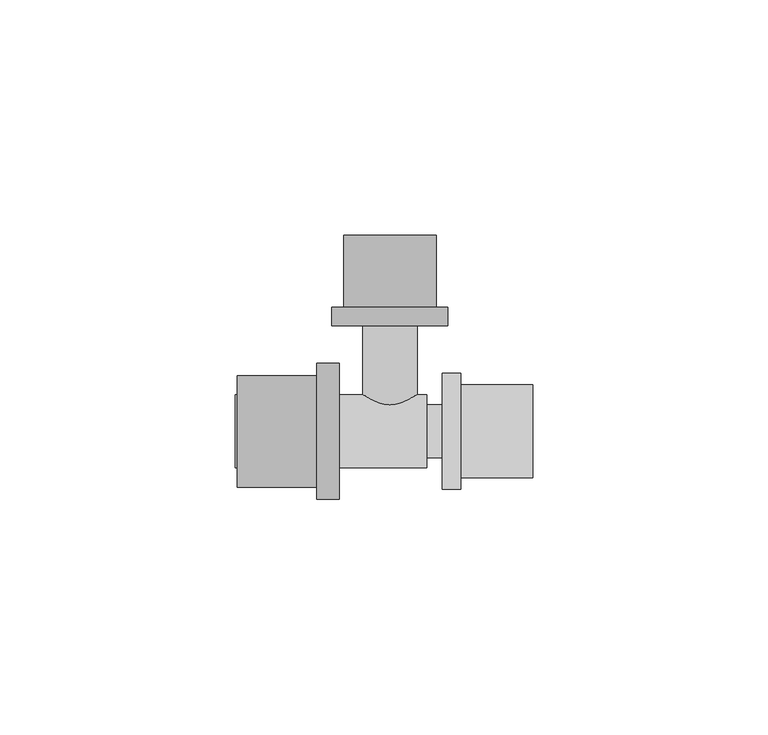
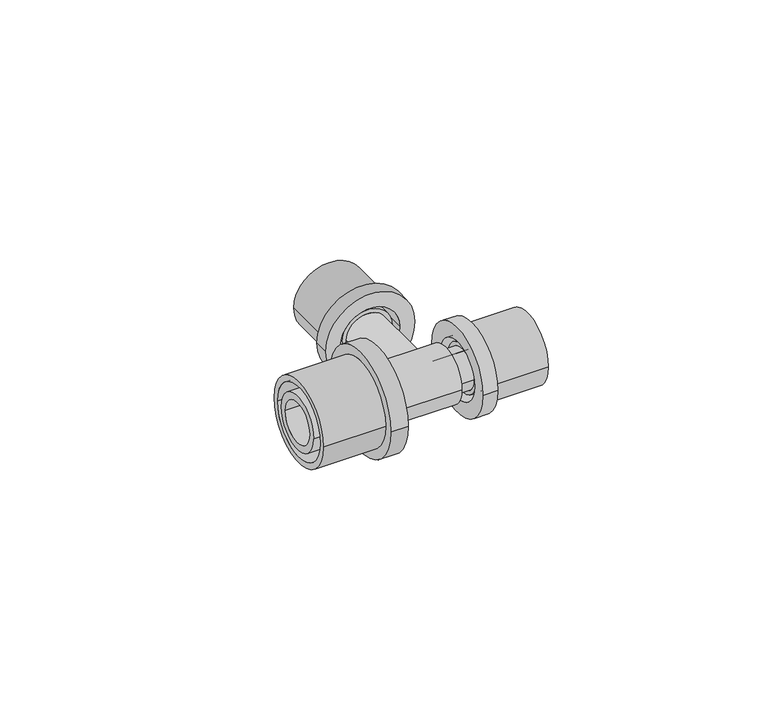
"""IFC4 building model written with IfcOpenShell, lengths in millimetres: pipe fitting geometry, FASTLOC_T-piece_EX+ : FSL T-Piece EX+ AT."""

from ifc_helpers import new_model, si_unit, frame, origin, place, context, project, spatial, polyline, circle_curve, source, transform, mapped, element, save
from ifc_brep_helpers import plane_surface, cylinder_surface, revolved_surface, advanced_brep


def pipe_fitting_3090ac59(model_context):
    return source(origin(), model_context, "Body", "AdvancedBrep", [
        advanced_brep(
        [(15.1, 12.35, 0.0), (15.1, -12.35, 0.0), (11.1, -12.35, 0.0), (11.1, 12.35, 0.0), (30.4, 9.85, 0.0), (30.4, -9.85, 0.0), (15.1, -9.85, 0.0), (15.1, 9.85, 0.0), (11.1, 8.15, 0.0), (11.1, -8.15, 0.0), (30.4, -8.15, 0.0), (30.4, 8.15, 0.0)],
        [
            (0, 1, circle_curve(frame((15.1, 0.0, 0.0), z_axis=(-1.0, 0.0, 0.0), x_axis=(0.0, -1.0, 0.0)), 12.35)),
            (1, 2),
            (2, 3, circle_curve(frame((11.1, 0.0, 0.0), z_axis=(1.0, 0.0, 0.0), x_axis=(0.0, -1.0, 0.0)), 12.35)),
            (3, 0),
            (4, 5, circle_curve(frame((30.4, 0.0, 0.0), z_axis=(-1.0, 0.0, 0.0), x_axis=(0.0, -1.0, 0.0)), 9.85)),
            (5, 6),
            (6, 7, circle_curve(frame((15.1, 0.0, 0.0), z_axis=(1.0, 0.0, 0.0), x_axis=(0.0, -1.0, 0.0)), 9.85)),
            (7, 4),
            (8, 9, circle_curve(frame((11.1, 0.0, 0.0), z_axis=(-1.0, 0.0, 0.0), x_axis=(0.0, -1.0, 0.0)), 8.15)),
            (9, 10),
            (10, 11, circle_curve(frame((30.4, 0.0, 0.0), z_axis=(1.0, 0.0, 0.0), x_axis=(0.0, -1.0, 0.0)), 8.15)),
            (11, 8),
            (1, 0, circle_curve(frame((15.1, 0.0, 0.0), z_axis=(-1.0, 0.0, 0.0), x_axis=(0.0, 1.0, 0.0)), 12.35)),
            (3, 2, circle_curve(frame((11.1, 0.0, 0.0), z_axis=(1.0, 0.0, 0.0), x_axis=(0.0, 1.0, 0.0)), 12.35)),
            (6, 7, circle_curve(frame((15.1, 0.0, 0.0), z_axis=(-1.0, 0.0, 0.0), x_axis=(0.0, 1.0, 0.0)), 9.85)),
            (5, 4, circle_curve(frame((30.4, 0.0, 0.0), z_axis=(-1.0, 0.0, 0.0), x_axis=(0.0, 1.0, 0.0)), 9.85)),
            (10, 11, circle_curve(frame((30.4, 0.0, 0.0), z_axis=(-1.0, 0.0, 0.0), x_axis=(0.0, 1.0, 0.0)), 8.15)),
            (9, 8, circle_curve(frame((11.1, 0.0, 0.0), z_axis=(-1.0, 0.0, 0.0), x_axis=(0.0, 1.0, 0.0)), 8.15)),
        ],
        [
            cylinder_surface(frame((11.1, 0.0, 0.0), z_axis=(1.0, 0.0, 0.0), x_axis=(0.0, -1.0, 0.0)), 12.35),
            cylinder_surface(frame((11.1, 0.0, 0.0), z_axis=(1.0, 0.0, 0.0), x_axis=(0.0, -1.0, 0.0)), 9.85),
            revolved_surface(polyline([(30.4, -8.15, 0.0), (11.1, -8.15, 0.0)]), (11.1, 0.0, 0.0), (1.0, 0.0, 0.0)),
            cylinder_surface(frame((11.1, 0.0, 0.0), z_axis=(1.0, 0.0, 0.0), x_axis=(0.0, 1.0, 0.0)), 12.35),
            plane_surface(frame((15.1, 0.0, 0.0), z_axis=(1.0, 0.0, 0.0), x_axis=(0.0, 1.0, 0.0))),
            cylinder_surface(frame((11.1, 0.0, 0.0), z_axis=(1.0, 0.0, 0.0), x_axis=(0.0, 1.0, 0.0)), 9.85),
            plane_surface(frame((30.4, 0.0, 0.0), z_axis=(1.0, 0.0, 0.0), x_axis=(0.0, 1.0, 0.0))),
            revolved_surface(polyline([(30.4, 8.15, 0.0), (11.1, 8.15, 0.0)]), (11.1, 0.0, 0.0), (1.0, 0.0, 0.0)),
            plane_surface(frame((11.1, 0.0, 0.0), z_axis=(-1.0, 0.0, 0.0), x_axis=(0.0, 1.0, 0.0))),
        ],
        [
            (0, [[1, 2, 3, 4]]),
            (1, [[5, 6, 7, 8]]),
            (2, [[9, 10, 11, 12]]),
            (3, [[13, -4, 14, -2]]),
            (4, [[-13, -1], [15, -7]]),
            (5, [[16, -8, -15, -6]]),
            (6, [[-16, -5], [17, -11]]),
            (7, [[18, -12, -17, -10]]),
            (8, [[-14, -3], [-18, -9]]),
        ],
    ),
        advanced_brep(
        [(-15.5, -14.5, 0.0), (-15.5, 14.5, 0.0), (-10.8, 14.5, 0.0), (-10.8, -14.5, 0.0), (-32.5, -11.85, 0.0), (-32.5, 11.85, 0.0), (-15.5, 11.85, 0.0), (-15.5, -11.85, 0.0), (-10.8, -10.15, 0.0), (-10.8, 10.15, 0.0), (-32.5, 10.15, 0.0), (-32.5, -10.15, 0.0)],
        [
            (0, 1, circle_curve(frame((-15.5, 0.0, 0.0), z_axis=(1.0, 0.0, 0.0), x_axis=(0.0, 1.0, 0.0)), 14.5)),
            (1, 2),
            (2, 3, circle_curve(frame((-10.8, 0.0, 0.0), z_axis=(-1.0, 0.0, 0.0), x_axis=(0.0, 1.0, 0.0)), 14.5)),
            (3, 0),
            (4, 5, circle_curve(frame((-32.5, 0.0, 0.0), z_axis=(1.0, 0.0, 0.0), x_axis=(0.0, 1.0, 0.0)), 11.85)),
            (5, 6),
            (6, 7, circle_curve(frame((-15.5, 0.0, 0.0), z_axis=(-1.0, 0.0, 0.0), x_axis=(0.0, 1.0, 0.0)), 11.85)),
            (7, 4),
            (8, 9, circle_curve(frame((-10.8, 0.0, 0.0), z_axis=(1.0, 0.0, 0.0), x_axis=(0.0, 1.0, 0.0)), 10.15)),
            (9, 10),
            (10, 11, circle_curve(frame((-32.5, 0.0, 0.0), z_axis=(-1.0, 0.0, 0.0), x_axis=(0.0, 1.0, 0.0)), 10.15)),
            (11, 8),
            (1, 0, circle_curve(frame((-15.5, 0.0, 0.0), z_axis=(1.0, 0.0, 0.0), x_axis=(0.0, -1.0, 0.0)), 14.5)),
            (3, 2, circle_curve(frame((-10.8, 0.0, 0.0), z_axis=(-1.0, 0.0, 0.0), x_axis=(0.0, -1.0, 0.0)), 14.5)),
            (6, 7, circle_curve(frame((-15.5, 0.0, 0.0), z_axis=(1.0, 0.0, 0.0), x_axis=(0.0, -1.0, 0.0)), 11.85)),
            (5, 4, circle_curve(frame((-32.5, 0.0, 0.0), z_axis=(1.0, 0.0, 0.0), x_axis=(0.0, -1.0, 0.0)), 11.85)),
            (10, 11, circle_curve(frame((-32.5, 0.0, 0.0), z_axis=(1.0, 0.0, 0.0), x_axis=(0.0, -1.0, 0.0)), 10.15)),
            (9, 8, circle_curve(frame((-10.8, 0.0, 0.0), z_axis=(1.0, 0.0, 0.0), x_axis=(0.0, -1.0, 0.0)), 10.15)),
        ],
        [
            cylinder_surface(frame((-10.8, 0.0, 0.0), z_axis=(-1.0, 0.0, 0.0), x_axis=(0.0, 1.0, 0.0)), 14.5),
            cylinder_surface(frame((-10.8, 0.0, 0.0), z_axis=(-1.0, 0.0, 0.0), x_axis=(0.0, 1.0, 0.0)), 11.85),
            revolved_surface(polyline([(-32.5, 10.15, 0.0), (-10.8, 10.15, 0.0)]), (-10.8, 0.0, 0.0), (-1.0, 0.0, 0.0)),
            cylinder_surface(frame((-10.8, 0.0, 0.0), z_axis=(-1.0, 0.0, 0.0), x_axis=(0.0, -1.0, 0.0)), 14.5),
            plane_surface(frame((-15.5, 0.0, 0.0), z_axis=(-1.0, 0.0, 0.0), x_axis=(0.0, -1.0, 0.0))),
            cylinder_surface(frame((-10.8, 0.0, 0.0), z_axis=(-1.0, 0.0, 0.0), x_axis=(0.0, -1.0, 0.0)), 11.85),
            plane_surface(frame((-32.5, 0.0, 0.0), z_axis=(-1.0, 0.0, 0.0), x_axis=(0.0, -1.0, 0.0))),
            revolved_surface(polyline([(-32.5, -10.15, 0.0), (-10.8, -10.15, 0.0)]), (-10.8, 0.0, 0.0), (-1.0, 0.0, 0.0)),
            plane_surface(frame((-10.8, 0.0, 0.0), z_axis=(1.0, 0.0, 0.0), x_axis=(0.0, -1.0, 0.0))),
        ],
        [
            (0, [[1, 2, 3, 4]]),
            (1, [[5, 6, 7, 8]]),
            (2, [[9, 10, 11, 12]]),
            (3, [[13, -4, 14, -2]]),
            (4, [[-13, -1], [15, -7]]),
            (5, [[16, -8, -15, -6]]),
            (6, [[-16, -5], [17, -11]]),
            (7, [[18, -12, -17, -10]]),
            (8, [[-14, -3], [-18, -9]]),
        ],
    ),
        advanced_brep(
        [(-12.35, 26.4, 0.0), (12.35, 26.4, 0.0), (12.35, 22.4, 0.0), (-12.35, 22.4, 0.0), (-9.85, 41.7, 0.0), (9.85, 41.7, 0.0), (9.85, 26.4, 0.0), (-9.85, 26.4, 0.0), (-8.15, 22.4, 0.0), (8.15, 22.4, 0.0), (8.15, 41.7, 0.0), (-8.15, 41.7, 0.0)],
        [
            (0, 1, circle_curve(frame((0.0, 26.4, 0.0), z_axis=(0.0, -1.0, 0.0), x_axis=(1.0, 0.0, 0.0)), 12.35)),
            (1, 2),
            (2, 3, circle_curve(frame((0.0, 22.4, 0.0), z_axis=(0.0, 1.0, 0.0), x_axis=(1.0, 0.0, 0.0)), 12.35)),
            (3, 0),
            (4, 5, circle_curve(frame((0.0, 41.7, 0.0), z_axis=(0.0, -1.0, 0.0), x_axis=(1.0, 0.0, 0.0)), 9.85)),
            (5, 6),
            (6, 7, circle_curve(frame((0.0, 26.4, 0.0), z_axis=(0.0, 1.0, 0.0), x_axis=(1.0, 0.0, 0.0)), 9.85)),
            (7, 4),
            (8, 9, circle_curve(frame((0.0, 22.4, 0.0), z_axis=(0.0, -1.0, 0.0), x_axis=(1.0, 0.0, 0.0)), 8.15)),
            (9, 10),
            (10, 11, circle_curve(frame((0.0, 41.7, 0.0), z_axis=(0.0, 1.0, 0.0), x_axis=(1.0, 0.0, 0.0)), 8.15)),
            (11, 8),
            (1, 0, circle_curve(frame((0.0, 26.4, 0.0), z_axis=(0.0, -1.0, 0.0), x_axis=(-1.0, 0.0, 0.0)), 12.35)),
            (3, 2, circle_curve(frame((0.0, 22.4, 0.0), z_axis=(0.0, 1.0, 0.0), x_axis=(-1.0, 0.0, 0.0)), 12.35)),
            (6, 7, circle_curve(frame((0.0, 26.4, 0.0), z_axis=(0.0, -1.0, 0.0), x_axis=(-1.0, 0.0, 0.0)), 9.85)),
            (5, 4, circle_curve(frame((0.0, 41.7, 0.0), z_axis=(0.0, -1.0, 0.0), x_axis=(-1.0, 0.0, 0.0)), 9.85)),
            (10, 11, circle_curve(frame((0.0, 41.7, 0.0), z_axis=(0.0, -1.0, 0.0), x_axis=(-1.0, 0.0, 0.0)), 8.15)),
            (9, 8, circle_curve(frame((0.0, 22.4, 0.0), z_axis=(0.0, -1.0, 0.0), x_axis=(-1.0, 0.0, 0.0)), 8.15)),
        ],
        [
            cylinder_surface(frame((0.0, 22.4, 0.0), z_axis=(0.0, 1.0, 0.0), x_axis=(1.0, 0.0, 0.0)), 12.35),
            cylinder_surface(frame((0.0, 22.4, 0.0), z_axis=(0.0, 1.0, 0.0), x_axis=(1.0, 0.0, 0.0)), 9.85),
            revolved_surface(polyline([(8.15, 41.7, 0.0), (8.15, 22.4, 0.0)]), (0.0, 22.4, 0.0), (0.0, 1.0, 0.0)),
            cylinder_surface(frame((0.0, 22.4, 0.0), z_axis=(0.0, 1.0, 0.0), x_axis=(-1.0, 0.0, 0.0)), 12.35),
            plane_surface(frame((0.0, 26.4, 0.0), z_axis=(0.0, 1.0, 0.0), x_axis=(-1.0, 0.0, 0.0))),
            cylinder_surface(frame((0.0, 22.4, 0.0), z_axis=(0.0, 1.0, 0.0), x_axis=(-1.0, 0.0, 0.0)), 9.85),
            plane_surface(frame((0.0, 41.7, 0.0), z_axis=(0.0, 1.0, 0.0), x_axis=(-1.0, 0.0, 0.0))),
            revolved_surface(polyline([(-8.15, 41.7, 0.0), (-8.15, 22.4, 0.0)]), (0.0, 22.4, 0.0), (0.0, 1.0, 0.0)),
            plane_surface(frame((0.0, 22.4, 0.0), z_axis=(0.0, -1.0, 0.0), x_axis=(-1.0, 0.0, 0.0))),
        ],
        [
            (0, [[1, 2, 3, 4]]),
            (1, [[5, 6, 7, 8]]),
            (2, [[9, 10, 11, 12]]),
            (3, [[13, -4, 14, -2]]),
            (4, [[-13, -1], [15, -7]]),
            (5, [[16, -8, -15, -6]]),
            (6, [[-16, -5], [17, -11]]),
            (7, [[18, -12, -17, -10]]),
            (8, [[-14, -3], [-18, -9]]),
        ],
    ),
        advanced_brep(
        [(12.39, 5.6, 0.0), (12.39, -5.6, 0.0), (7.85, -5.6, 0.0), (7.85, 5.6, 0.0), (15.1, 6.7, 0.0), (15.1, -6.7, 0.0), (12.39, -6.7, 0.0), (12.39, 6.7, 0.0), (30.1, 5.6, 0.0), (30.1, -5.6, 0.0), (15.1, -5.6, 0.0), (15.1, 5.6, 0.0), (6.0, 3.75, 0.0), (6.0, -3.75, 0.0), (30.1, -3.75, 0.0), (30.1, 3.75, 0.0), (-32.9, 5.75, 0.0), (-32.9, -5.75, 0.0), (6.0, -5.75, 0.0), (6.0, 5.75, 0.0), (-15.5, 7.75, 0.0), (-15.5, -7.75, 0.0), (-32.9, -7.75, 0.0), (-32.9, 7.75, 0.0), (-12.83, 8.8, 0.0), (-12.83, -8.8, 0.0), (-15.5, -8.8, 0.0), (-15.5, 8.8, 0.0), (7.85, 7.75, 0.0), (7.85, -7.75, 0.0), (-12.83, -7.75, 0.0), (-12.83, 7.75, 0.0)],
        [
            (0, 1, circle_curve(frame((12.39, 0.0, 0.0), z_axis=(-1.0, 0.0, 0.0), x_axis=(0.0, -1.0, 0.0)), 5.6)),
            (1, 2),
            (2, 3, circle_curve(frame((7.85, 0.0, 0.0), z_axis=(1.0, 0.0, 0.0), x_axis=(0.0, -1.0, 0.0)), 5.6)),
            (3, 0),
            (4, 5, circle_curve(frame((15.1, 0.0, 0.0), z_axis=(-1.0, 0.0, 0.0), x_axis=(0.0, -1.0, 0.0)), 6.7)),
            (5, 6),
            (6, 7, circle_curve(frame((12.39, 0.0, 0.0), z_axis=(1.0, 0.0, 0.0), x_axis=(0.0, -1.0, 0.0)), 6.7)),
            (7, 4),
            (8, 9, circle_curve(frame((30.1, 0.0, 0.0), z_axis=(-1.0, 0.0, 0.0), x_axis=(0.0, -1.0, 0.0)), 5.6)),
            (9, 10),
            (10, 11, circle_curve(frame((15.1, 0.0, 0.0), z_axis=(1.0, 0.0, 0.0), x_axis=(0.0, -1.0, 0.0)), 5.6)),
            (11, 8),
            (12, 13, circle_curve(frame((6.0, 0.0, 0.0), z_axis=(-1.0, 0.0, 0.0), x_axis=(0.0, -1.0, 0.0)), 3.75)),
            (13, 14),
            (14, 15, circle_curve(frame((30.1, 0.0, 0.0), z_axis=(1.0, 0.0, 0.0), x_axis=(0.0, -1.0, 0.0)), 3.75)),
            (15, 12),
            (16, 17, circle_curve(frame((-32.9, 0.0, 0.0), z_axis=(-1.0, 0.0, 0.0), x_axis=(0.0, -1.0, 0.0)), 5.75)),
            (17, 18),
            (18, 19, circle_curve(frame((6.0, 0.0, 0.0), z_axis=(1.0, 0.0, 0.0), x_axis=(0.0, -1.0, 0.0)), 5.75)),
            (19, 16),
            (20, 21, circle_curve(frame((-15.5, 0.0, 0.0), z_axis=(-1.0, 0.0, 0.0), x_axis=(0.0, -1.0, 0.0)), 7.75)),
            (21, 22),
            (22, 23, circle_curve(frame((-32.9, 0.0, 0.0), z_axis=(1.0, 0.0, 0.0), x_axis=(0.0, -1.0, 0.0)), 7.75)),
            (23, 20),
            (24, 25, circle_curve(frame((-12.83, 0.0, 0.0), z_axis=(-1.0, 0.0, 0.0), x_axis=(0.0, -1.0, 0.0)), 8.8)),
            (25, 26),
            (26, 27, circle_curve(frame((-15.5, 0.0, 0.0), z_axis=(1.0, 0.0, 0.0), x_axis=(0.0, -1.0, 0.0)), 8.8)),
            (27, 24),
            (28, 29, circle_curve(frame((7.85, 0.0, 0.0), z_axis=(-1.0, 0.0, 0.0), x_axis=(0.0, -1.0, 0.0)), 7.75)),
            (29, 30),
            (30, 31, circle_curve(frame((-12.83, 0.0, 0.0), z_axis=(1.0, 0.0, 0.0), x_axis=(0.0, -1.0, 0.0)), 7.75)),
            (31, 28),
            (28, 29, circle_curve(frame((7.85, 0.0, 0.0), z_axis=(1.0, 0.0, 0.0), x_axis=(0.0, 1.0, 0.0)), 7.75)),
            (2, 3, circle_curve(frame((7.85, 0.0, 0.0), z_axis=(-1.0, 0.0, 0.0), x_axis=(0.0, 1.0, 0.0)), 5.6)),
            (1, 0, circle_curve(frame((12.39, 0.0, 0.0), z_axis=(-1.0, 0.0, 0.0), x_axis=(0.0, 1.0, 0.0)), 5.6)),
            (6, 7, circle_curve(frame((12.39, 0.0, 0.0), z_axis=(-1.0, 0.0, 0.0), x_axis=(0.0, 1.0, 0.0)), 6.7)),
            (5, 4, circle_curve(frame((15.1, 0.0, 0.0), z_axis=(-1.0, 0.0, 0.0), x_axis=(0.0, 1.0, 0.0)), 6.7)),
            (10, 11, circle_curve(frame((15.1, 0.0, 0.0), z_axis=(-1.0, 0.0, 0.0), x_axis=(0.0, 1.0, 0.0)), 5.6)),
            (9, 8, circle_curve(frame((30.1, 0.0, 0.0), z_axis=(-1.0, 0.0, 0.0), x_axis=(0.0, 1.0, 0.0)), 5.6)),
            (14, 15, circle_curve(frame((30.1, 0.0, 0.0), z_axis=(-1.0, 0.0, 0.0), x_axis=(0.0, 1.0, 0.0)), 3.75)),
            (13, 12, circle_curve(frame((6.0, 0.0, 0.0), z_axis=(-1.0, 0.0, 0.0), x_axis=(0.0, 1.0, 0.0)), 3.75)),
            (18, 19, circle_curve(frame((6.0, 0.0, 0.0), z_axis=(-1.0, 0.0, 0.0), x_axis=(0.0, 1.0, 0.0)), 5.75)),
            (17, 16, circle_curve(frame((-32.9, 0.0, 0.0), z_axis=(-1.0, 0.0, 0.0), x_axis=(0.0, 1.0, 0.0)), 5.75)),
            (22, 23, circle_curve(frame((-32.9, 0.0, 0.0), z_axis=(-1.0, 0.0, 0.0), x_axis=(0.0, 1.0, 0.0)), 7.75)),
            (21, 20, circle_curve(frame((-15.5, 0.0, 0.0), z_axis=(-1.0, 0.0, 0.0), x_axis=(0.0, 1.0, 0.0)), 7.75)),
            (26, 27, circle_curve(frame((-15.5, 0.0, 0.0), z_axis=(-1.0, 0.0, 0.0), x_axis=(0.0, 1.0, 0.0)), 8.8)),
            (25, 24, circle_curve(frame((-12.83, 0.0, 0.0), z_axis=(-1.0, 0.0, 0.0), x_axis=(0.0, 1.0, 0.0)), 8.8)),
            (30, 31, circle_curve(frame((-12.83, 0.0, 0.0), z_axis=(-1.0, 0.0, 0.0), x_axis=(0.0, 1.0, 0.0)), 7.75)),
        ],
        [
            cylinder_surface(frame((0.0, 0.0, 0.0), z_axis=(1.0, 0.0, 0.0), x_axis=(0.0, -1.0, 0.0)), 5.6),
            cylinder_surface(frame((0.0, 0.0, 0.0), z_axis=(1.0, 0.0, 0.0), x_axis=(0.0, -1.0, 0.0)), 6.7),
            revolved_surface(polyline([(30.1, -3.75, 0.0), (6.0, -3.75, 0.0)]), (0.0, 0.0, 0.0), (1.0, 0.0, 0.0)),
            revolved_surface(polyline([(6.0, -5.75, 0.0), (-32.9, -5.75, 0.0)]), (0.0, 0.0, 0.0), (1.0, 0.0, 0.0)),
            cylinder_surface(frame((0.0, 0.0, 0.0), z_axis=(1.0, 0.0, 0.0), x_axis=(0.0, -1.0, 0.0)), 7.75),
            cylinder_surface(frame((0.0, 0.0, 0.0), z_axis=(1.0, 0.0, 0.0), x_axis=(0.0, -1.0, 0.0)), 8.8),
            plane_surface(frame((7.85, 0.0, 0.0), z_axis=(1.0, 0.0, 0.0), x_axis=(0.0, 1.0, 0.0))),
            cylinder_surface(frame((0.0, 0.0, 0.0), z_axis=(1.0, 0.0, 0.0), x_axis=(0.0, 1.0, 0.0)), 5.6),
            plane_surface(frame((12.39, 0.0, 0.0), z_axis=(-1.0, 0.0, 0.0), x_axis=(0.0, 1.0, 0.0))),
            cylinder_surface(frame((0.0, 0.0, 0.0), z_axis=(1.0, 0.0, 0.0), x_axis=(0.0, 1.0, 0.0)), 6.7),
            plane_surface(frame((15.1, 0.0, 0.0), z_axis=(1.0, 0.0, 0.0), x_axis=(0.0, 1.0, 0.0))),
            plane_surface(frame((30.1, 0.0, 0.0), z_axis=(1.0, 0.0, 0.0), x_axis=(0.0, 1.0, 0.0))),
            revolved_surface(polyline([(30.1, 3.75, 0.0), (6.0, 3.75, 0.0)]), (0.0, 0.0, 0.0), (1.0, 0.0, 0.0)),
            plane_surface(frame((6.0, 0.0, 0.0), z_axis=(-1.0, 0.0, 0.0), x_axis=(0.0, 1.0, 0.0))),
            revolved_surface(polyline([(6.0, 5.75, 0.0), (-32.9, 5.75, 0.0)]), (0.0, 0.0, 0.0), (1.0, 0.0, 0.0)),
            plane_surface(frame((-32.9, 0.0, 0.0), z_axis=(-1.0, 0.0, 0.0), x_axis=(0.0, 1.0, 0.0))),
            cylinder_surface(frame((0.0, 0.0, 0.0), z_axis=(1.0, 0.0, 0.0), x_axis=(0.0, 1.0, 0.0)), 7.75),
            plane_surface(frame((-15.5, 0.0, 0.0), z_axis=(-1.0, 0.0, 0.0), x_axis=(0.0, 1.0, 0.0))),
            cylinder_surface(frame((0.0, 0.0, 0.0), z_axis=(1.0, 0.0, 0.0), x_axis=(0.0, 1.0, 0.0)), 8.8),
            plane_surface(frame((-12.83, 0.0, 0.0), z_axis=(1.0, 0.0, 0.0), x_axis=(0.0, 1.0, 0.0))),
        ],
        [
            (0, [[1, 2, 3, 4]]),
            (1, [[5, 6, 7, 8]]),
            (0, [[9, 10, 11, 12]]),
            (2, [[13, 14, 15, 16]]),
            (3, [[17, 18, 19, 20]]),
            (4, [[21, 22, 23, 24]]),
            (5, [[25, 26, 27, 28]]),
            (4, [[29, 30, 31, 32]]),
            (6, [[33, -29], [34, -3]]),
            (7, [[35, -4, -34, -2]]),
            (8, [[36, -7], [-35, -1]]),
            (9, [[37, -8, -36, -6]]),
            (10, [[-37, -5], [38, -11]]),
            (7, [[39, -12, -38, -10]]),
            (11, [[-39, -9], [40, -15]]),
            (12, [[41, -16, -40, -14]]),
            (13, [[42, -19], [-41, -13]]),
            (14, [[43, -20, -42, -18]]),
            (15, [[44, -23], [-43, -17]]),
            (16, [[45, -24, -44, -22]]),
            (17, [[46, -27], [-45, -21]]),
            (18, [[47, -28, -46, -26]]),
            (19, [[-47, -25], [48, -31]]),
            (16, [[-33, -32, -48, -30]]),
        ],
    ),
        advanced_brep(
        [(3.95, 41.4, 0.0), (-3.95, 41.4, 0.0), (-3.95, 0.0, 0.0), (3.95, 0.0, 0.0), (5.8, 0.0, 0.0), (-5.8, 0.0, 0.0), (-5.8, 23.69, 0.0), (5.8, 23.69, 0.0), (6.9, 23.69, 0.0), (-6.9, 23.69, 0.0), (-6.9, 26.4, 0.0), (6.9, 26.4, 0.0), (5.8, 26.4, 0.0), (-5.8, 26.4, 0.0), (-5.8, 41.4, 0.0), (5.8, 41.4, 0.0)],
        [
            (0, 1, circle_curve(frame((0.0, 41.4, 0.0), z_axis=(0.0, 1.0, 0.0), x_axis=(-1.0, 0.0, 0.0)), 3.95)),
            (1, 2),
            (2, 3, circle_curve(frame((0.0, 0.0, 0.0), z_axis=(0.0, -1.0, 0.0), x_axis=(-1.0, 0.0, 0.0)), 3.95)),
            (3, 0),
            (4, 5, circle_curve(frame((0.0, 0.0, 0.0), z_axis=(0.0, 1.0, 0.0), x_axis=(-1.0, 0.0, 0.0)), 5.8)),
            (5, 6),
            (6, 7, circle_curve(frame((0.0, 23.69, 0.0), z_axis=(0.0, -1.0, 0.0), x_axis=(-1.0, 0.0, 0.0)), 5.8)),
            (7, 4),
            (8, 9, circle_curve(frame((0.0, 23.69, 0.0), z_axis=(0.0, 1.0, 0.0), x_axis=(-1.0, 0.0, 0.0)), 6.9)),
            (9, 10),
            (10, 11, circle_curve(frame((0.0, 26.4, 0.0), z_axis=(0.0, -1.0, 0.0), x_axis=(-1.0, 0.0, 0.0)), 6.9)),
            (11, 8),
            (12, 13, circle_curve(frame((0.0, 26.4, 0.0), z_axis=(0.0, 1.0, 0.0), x_axis=(-1.0, 0.0, 0.0)), 5.8)),
            (13, 14),
            (14, 15, circle_curve(frame((0.0, 41.4, 0.0), z_axis=(0.0, -1.0, 0.0), x_axis=(-1.0, 0.0, 0.0)), 5.8)),
            (15, 12),
            (1, 0, circle_curve(frame((0.0, 41.4, 0.0), z_axis=(0.0, 1.0, 0.0), x_axis=(1.0, 0.0, 0.0)), 3.95)),
            (3, 2, circle_curve(frame((0.0, 0.0, 0.0), z_axis=(0.0, -1.0, 0.0), x_axis=(1.0, 0.0, 0.0)), 3.95)),
            (4, 5, circle_curve(frame((0.0, 0.0, 0.0), z_axis=(0.0, -1.0, 0.0), x_axis=(1.0, 0.0, 0.0)), 5.8)),
            (7, 6, circle_curve(frame((0.0, 23.69, 0.0), z_axis=(0.0, -1.0, 0.0), x_axis=(1.0, 0.0, 0.0)), 5.8)),
            (8, 9, circle_curve(frame((0.0, 23.69, 0.0), z_axis=(0.0, -1.0, 0.0), x_axis=(1.0, 0.0, 0.0)), 6.9)),
            (11, 10, circle_curve(frame((0.0, 26.4, 0.0), z_axis=(0.0, -1.0, 0.0), x_axis=(1.0, 0.0, 0.0)), 6.9)),
            (12, 13, circle_curve(frame((0.0, 26.4, 0.0), z_axis=(0.0, -1.0, 0.0), x_axis=(1.0, 0.0, 0.0)), 5.8)),
            (15, 14, circle_curve(frame((0.0, 41.4, 0.0), z_axis=(0.0, -1.0, 0.0), x_axis=(1.0, 0.0, 0.0)), 5.8)),
        ],
        [
            revolved_surface(polyline([(-3.95, 0.0, 0.0), (-3.95, 41.4, 0.0)]), (0.0, 0.0, 0.0), (0.0, -1.0, 0.0)),
            cylinder_surface(frame((0.0, 0.0, 0.0), z_axis=(0.0, -1.0, 0.0), x_axis=(-1.0, 0.0, 0.0)), 5.8),
            cylinder_surface(frame((0.0, 0.0, 0.0), z_axis=(0.0, -1.0, 0.0), x_axis=(-1.0, 0.0, 0.0)), 6.9),
            revolved_surface(polyline([(3.95, 0.0, 0.0), (3.95, 41.4, 0.0)]), (0.0, 0.0, 0.0), (0.0, -1.0, 0.0)),
            plane_surface(frame((0.0, 0.0, 0.0), z_axis=(0.0, -1.0, 0.0), x_axis=(1.0, 0.0, 0.0))),
            cylinder_surface(frame((0.0, 0.0, 0.0), z_axis=(0.0, -1.0, 0.0), x_axis=(1.0, 0.0, 0.0)), 5.8),
            plane_surface(frame((0.0, 23.69, 0.0), z_axis=(0.0, -1.0, 0.0), x_axis=(1.0, 0.0, 0.0))),
            cylinder_surface(frame((0.0, 0.0, 0.0), z_axis=(0.0, -1.0, 0.0), x_axis=(1.0, 0.0, 0.0)), 6.9),
            plane_surface(frame((0.0, 26.4, 0.0), z_axis=(0.0, 1.0, 0.0), x_axis=(1.0, 0.0, 0.0))),
            plane_surface(frame((0.0, 41.4, 0.0), z_axis=(0.0, 1.0, 0.0), x_axis=(1.0, 0.0, 0.0))),
        ],
        [
            (0, [[1, 2, 3, 4]]),
            (1, [[5, 6, 7, 8]]),
            (2, [[9, 10, 11, 12]]),
            (1, [[13, 14, 15, 16]]),
            (3, [[17, -4, 18, -2]]),
            (4, [[19, -5], [-18, -3]]),
            (5, [[-19, -8, 20, -6]]),
            (6, [[21, -9], [-20, -7]]),
            (7, [[-21, -12, 22, -10]]),
            (8, [[-22, -11], [23, -13]]),
            (5, [[-23, -16, 24, -14]]),
            (9, [[-24, -15], [-17, -1]]),
        ],
    ),
    ])


if __name__ == "__main__":
    model = new_model("IFC4")
    model_context = context("Model", 3, world=origin())
    ifc_project = project(units=[si_unit("LENGTHUNIT", "METRE", prefix="MILLI")], contexts=[model_context])
    site = spatial("IfcSite", under=ifc_project)
    building = spatial("IfcBuilding", under=site)
    placement = place(None, origin())
    pipe_fitting_shape = pipe_fitting_3090ac59(model_context)
    element("IfcPipeFitting", 1, ObjectType="FASTLOC_T-piece_EX+ : FSL T-Piece EX+ AT", at=placement, inside=building, context=model_context, shape_type="MappedRepresentation", body=[
        mapped(pipe_fitting_shape, transform((0.0, 0.0, 0.0), x_axis=(1.0, 0.0, 0.0), y_axis=(0.0, 1.0, 0.0), z_axis=(0.0, 0.0, 1.0))),
    ])
    save(model, "model.ifc")
